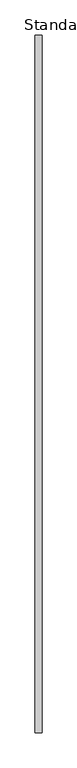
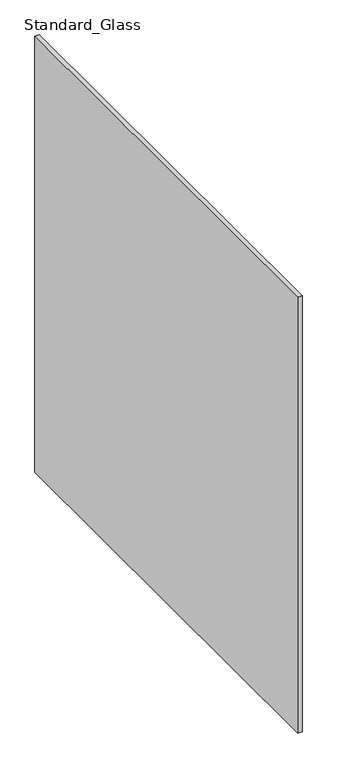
"""IFC4 building model written with IfcOpenShell, lengths in millimetres: railing geometry, Baluster-Excess-Fill-Straight-Panel-VIVA : Standard_Glass."""

from ifc_helpers import new_model, si_unit, frame, origin, place, context, project, spatial, polyline, outline, extrude, source, transform, mapped, element, save


def standard_glass_f61237d7(model_context):
    return source(origin(), model_context, "Body", "SweptSolid", [
        extrude(outline(polyline([(36.7665, 1.0851207), (27.2415, 1.0851207), (27.2415, 987.425), (36.7665, 987.425), (36.7665, 1.0851207)])), frame((0.0, 0.0, 76.581), z_axis=(0.0, 0.0, 1.0), x_axis=(1.0, 0.0, 0.0)), (0.0, 0.0, 1.0), 998.22),
    ])


if __name__ == "__main__":
    model = new_model("IFC4")
    model_context = context("Model", 3, world=origin())
    ifc_project = project(units=[si_unit("LENGTHUNIT", "METRE", prefix="MILLI")], contexts=[model_context])
    site = spatial("IfcSite", under=ifc_project)
    building = spatial("IfcBuilding", under=site)
    placement = place(None, origin())
    standard_glass_shape = standard_glass_f61237d7(model_context)
    element("IfcRailing", 1, ObjectType="Baluster-Excess-Fill-Straight-Panel-VIVA : Standard_Glass", at=placement, inside=building, context=model_context, shape_type="MappedRepresentation", body=[
        mapped(standard_glass_shape, transform((0.0, 0.0, 0.0), x_axis=(1.0, 0.0, 0.0), y_axis=(0.0, 1.0, 0.0), z_axis=(0.0, 0.0, 1.0))),
    ])
    save(model, "model.ifc")
